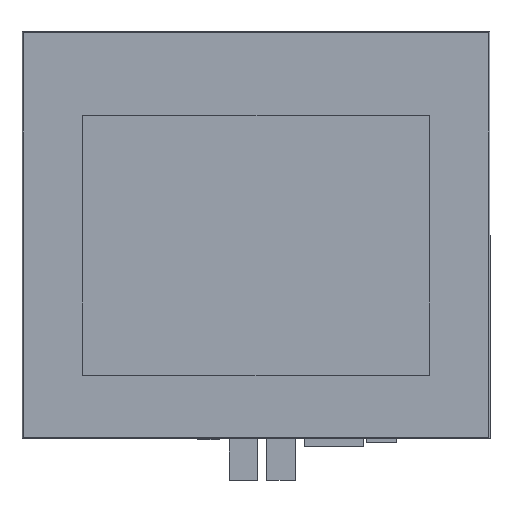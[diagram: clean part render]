
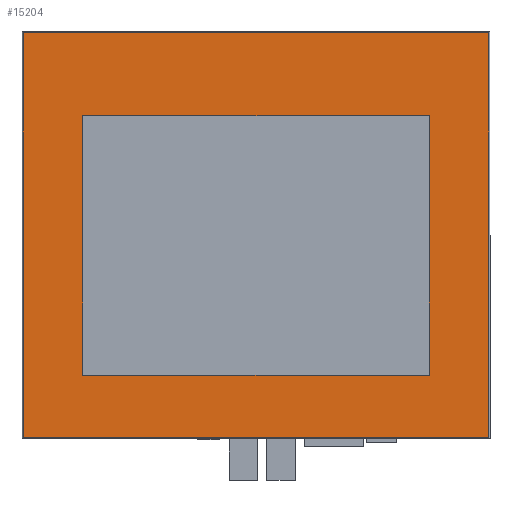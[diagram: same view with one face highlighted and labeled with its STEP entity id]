
A CAD part, top view. The second image highlights one B-rep face of the part: STEP entity #15204.
In plain terms, the highlighted planar face has unit normal (0, 0, 1).
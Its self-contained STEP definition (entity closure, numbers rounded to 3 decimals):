
#74 = AXIS2_PLACEMENT_3D ( 'NONE', #5770, #15981, #7281 ) ;
#373 = VECTOR ( 'NONE', #13313, 1000. ) ;
#1443 = VECTOR ( 'NONE', #6305, 1000. ) ;
#1538 = VERTEX_POINT ( 'NONE', #7421 ) ;
#2138 = ORIENTED_EDGE ( 'NONE', *, *, #16903, .T. ) ;
#2444 = LINE ( 'NONE', #15965, #12680 ) ;
#2742 = CARTESIAN_POINT ( 'NONE',  ( 115.2, 199.8, 4. ) ) ;
#2838 = LINE ( 'NONE', #12766, #17788 ) ;
#3211 = VECTOR ( 'NONE', #4365, 1000. ) ;
#3589 = DIRECTION ( 'NONE',  ( 0., 1., 0. ) ) ;
#3713 = VECTOR ( 'NONE', #7538, 1000. ) ;
#3794 = CARTESIAN_POINT ( 'NONE',  ( 115.2, 159.05, 4. ) ) ;
#4023 = DIRECTION ( 'NONE',  ( 0., -1., 0. ) ) ;
#4365 = DIRECTION ( 'NONE',  ( -1., 0., 0. ) ) ;
#4490 = CARTESIAN_POINT ( 'NONE',  ( 0.5, 199.8, 4. ) ) ;
#4944 = FACE_OUTER_BOUND ( 'NONE', #17747, .T. ) ;
#5770 = CARTESIAN_POINT ( 'NONE',  ( 115.2, 100.15, 4. ) ) ;
#6305 = DIRECTION ( 'NONE',  ( 0., 1., 0. ) ) ;
#6698 = VERTEX_POINT ( 'NONE', #8258 ) ;
#7029 = ORIENTED_EDGE ( 'NONE', *, *, #17415, .T. ) ;
#7281 = DIRECTION ( 'NONE',  ( 1., 0., 0. ) ) ;
#7331 = ORIENTED_EDGE ( 'NONE', *, *, #16552, .T. ) ;
#7421 = CARTESIAN_POINT ( 'NONE',  ( 229.9, 199.8, 4. ) ) ;
#7538 = DIRECTION ( 'NONE',  ( 0., -1., 0. ) ) ;
#7614 = CARTESIAN_POINT ( 'NONE',  ( 30., 31.25, 4. ) ) ;
#7896 = LINE ( 'NONE', #14829, #3713 ) ;
#8258 = CARTESIAN_POINT ( 'NONE',  ( 0.5, 0.5, 4. ) ) ;
#8476 = ORIENTED_EDGE ( 'NONE', *, *, #16033, .T. ) ;
#8495 = DIRECTION ( 'NONE',  ( 1., 0., 0. ) ) ;
#8834 = LINE ( 'NONE', #2742, #373 ) ;
#9292 = LINE ( 'NONE', #16489, #1443 ) ;
#9588 = CARTESIAN_POINT ( 'NONE',  ( 200.4, 159.05, 4. ) ) ;
#9650 = CARTESIAN_POINT ( 'NONE',  ( 229.9, 100.15, 4. ) ) ;
#10370 = ORIENTED_EDGE ( 'NONE', *, *, #16931, .T. ) ;
#10683 = ORIENTED_EDGE ( 'NONE', *, *, #17287, .T. ) ;
#12329 = CARTESIAN_POINT ( 'NONE',  ( 30., 159.05, 4. ) ) ;
#12600 = VERTEX_POINT ( 'NONE', #4490 ) ;
#12680 = VECTOR ( 'NONE', #4023, 1000. ) ;
#12766 = CARTESIAN_POINT ( 'NONE',  ( 115.2, 0.5, 4. ) ) ;
#13183 = VERTEX_POINT ( 'NONE', #15788 ) ;
#13299 = CARTESIAN_POINT ( 'NONE',  ( 115.2, 31.25, 4. ) ) ;
#13310 = VERTEX_POINT ( 'NONE', #7614 ) ;
#13313 = DIRECTION ( 'NONE',  ( -1., 0., 0. ) ) ;
#13727 = FACE_BOUND ( 'NONE', #14986, .T. ) ;
#14207 = DIRECTION ( 'NONE',  ( 1., 0., 0. ) ) ;
#14699 = LINE ( 'NONE', #13299, #3211 ) ;
#14829 = CARTESIAN_POINT ( 'NONE',  ( 0.5, 100.15, 4. ) ) ;
#14986 = EDGE_LOOP ( 'NONE', ( #7029, #15699, #17626, #10683 ) ) ;
#15204 = ADVANCED_FACE ( 'NONE', ( #13727, #4944 ), #18856, .T. ) ;
#15393 = VECTOR ( 'NONE', #8495, 1000. ) ;
#15620 = VECTOR ( 'NONE', #3589, 1000. ) ;
#15699 = ORIENTED_EDGE ( 'NONE', *, *, #17517, .T. ) ;
#15788 = CARTESIAN_POINT ( 'NONE',  ( 229.9, 0.5, 4. ) ) ;
#15965 = CARTESIAN_POINT ( 'NONE',  ( 200.4, 100.15, 4. ) ) ;
#15981 = DIRECTION ( 'NONE',  ( 0., 0., 1. ) ) ;
#16033 = EDGE_CURVE ( 'NONE', #6698, #13183, #2838, .T. ) ;
#16425 = CARTESIAN_POINT ( 'NONE',  ( 200.4, 31.25, 4. ) ) ;
#16466 = VERTEX_POINT ( 'NONE', #12329 ) ;
#16489 = CARTESIAN_POINT ( 'NONE',  ( 30., 100.15, 4. ) ) ;
#16552 = EDGE_CURVE ( 'NONE', #13183, #1538, #19508, .T. ) ;
#16903 = EDGE_CURVE ( 'NONE', #1538, #12600, #8834, .T. ) ;
#16931 = EDGE_CURVE ( 'NONE', #12600, #6698, #7896, .T. ) ;
#17026 = VERTEX_POINT ( 'NONE', #16425 ) ;
#17037 = EDGE_CURVE ( 'NONE', #13310, #16466, #9292, .T. ) ;
#17287 = EDGE_CURVE ( 'NONE', #16466, #19270, #19278, .T. ) ;
#17415 = EDGE_CURVE ( 'NONE', #19270, #17026, #2444, .T. ) ;
#17517 = EDGE_CURVE ( 'NONE', #17026, #13310, #14699, .T. ) ;
#17626 = ORIENTED_EDGE ( 'NONE', *, *, #17037, .T. ) ;
#17747 = EDGE_LOOP ( 'NONE', ( #2138, #10370, #8476, #7331 ) ) ;
#17788 = VECTOR ( 'NONE', #14207, 1000. ) ;
#18856 = PLANE ( 'NONE',  #74 ) ;
#19270 = VERTEX_POINT ( 'NONE', #9588 ) ;
#19278 = LINE ( 'NONE', #3794, #15393 ) ;
#19508 = LINE ( 'NONE', #9650, #15620 ) ;
